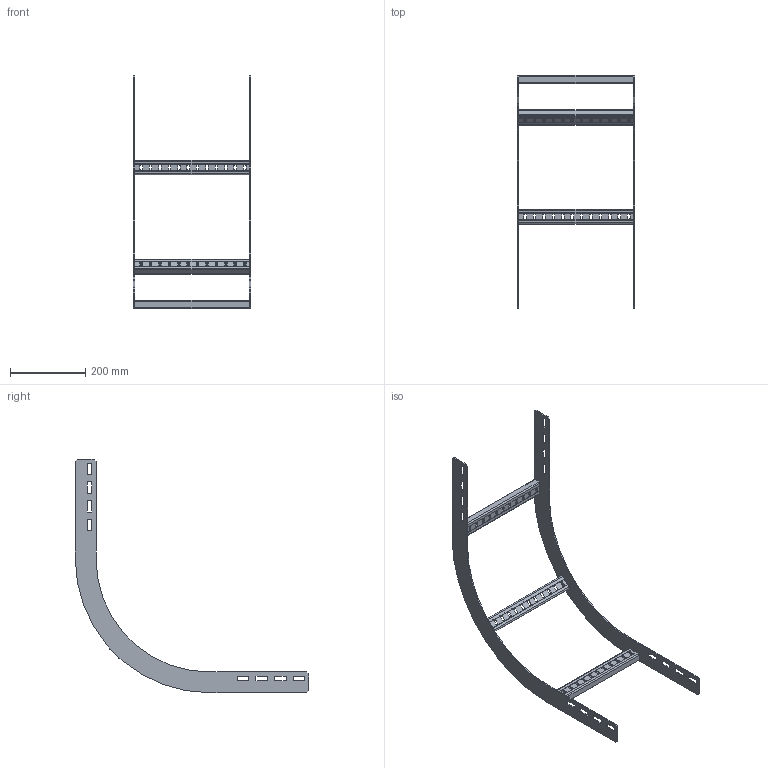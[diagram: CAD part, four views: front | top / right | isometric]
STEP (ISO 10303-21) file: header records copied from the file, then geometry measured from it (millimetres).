
FILE_DESCRIPTION(('Creo Elements/Direct Modeling STEP Export'),'2;1');
FILE_NAME('//pserver/office/EK/ME10-3D/3D-output/WPIR06-30-90-30.stp','2019-08-14T 9:41:34',(''),(''),'PTC Creo Elements/Direct Modeling STEP processor for AP214 (Solid Model)','PTC Creo Elements/Direct Modeling 19.0C 15-Aug-2015 (C) Parametric Technology GmbH','');
FILE_SCHEMA(('AUTOMOTIVE_DESIGN { 1 0 10303 214 1 1 1 1 }'));
Length unit declared in the file: millimetre
Products named in the file (3): WPIRS_60-90-300.002; WPHBS30.1; WPIR06-30-90-30
Assembly tree (5 placements, depth 2):
  WPIR06-30-90-30
    WPHBS30.1  x3
    WPIRS_60-90-300.002  x2
Bounding box: 311 x 620 x 620 mm (x, y, z)
Volume: 461376.5 mm3; surface area: 419596 mm2
Topology: 5 solids, 5 shells, 356 faces, 1038 edges, 692 vertices
Faces by surface type: plane 226, cylinder 130
Entity records: 4596 total; most frequent: CARTESIAN_POINT 789, ORIENTED_EDGE 780, DIRECTION 756, EDGE_CURVE 390, VECTOR 302, LINE 302, VERTEX_POINT 260, AXIS2_PLACEMENT_3D 227
